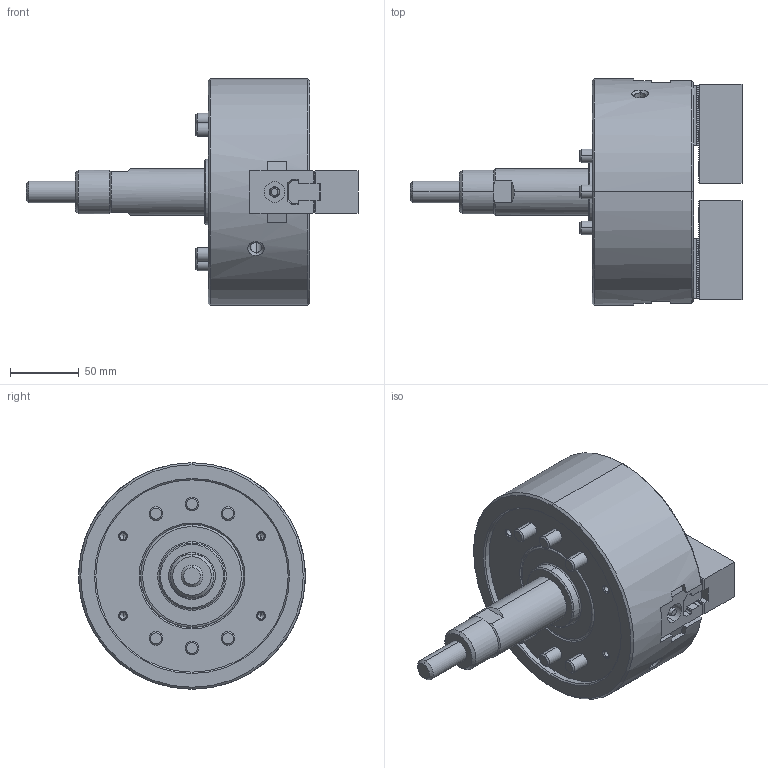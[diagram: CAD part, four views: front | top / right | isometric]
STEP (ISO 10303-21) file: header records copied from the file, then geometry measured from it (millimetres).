
FILE_DESCRIPTION (( 'STEP AP214' ), '1' );
FILE_NAME ('NLT06_OC.STEP', '2019-12-19T06:49:54', ( '' ), ( '' ), 'SwSTEP 2.0', 'SolidWorks 2017', '' );
FILE_SCHEMA (( 'AUTOMOTIVE_DESIGN' ));
Length unit declared in the file: millimetre
Products named in the file (5): 結合; 0030110030; 61P400822_俿僫僢僩; 61P314747_ソフトジョー; NLT06_OC
Assembly tree (9 placements, depth 2):
  NLT06_OC
    61P314747_ソフトジョー  x2
    61P400822_俿僫僢僩  x2
    0030110030  x4
    結合
Bounding box: 241.7 x 165 x 165 mm (x, y, z)
Volume: 1713197.3 mm3; surface area: 162669.6 mm2
Topology: 9 solids, 9 shells, 1686 faces, 4572 edges, 2927 vertices
Faces by surface type: plane 1315, cone 169, cylinder 166, torus 36
Entity records: 40114 total; most frequent: CARTESIAN_POINT 8167, ORIENTED_EDGE 6730, DIRECTION 6274, EDGE_CURVE 3365, LINE 2704, VECTOR 2704, VERTEX_POINT 2164, AXIS2_PLACEMENT_3D 1785
